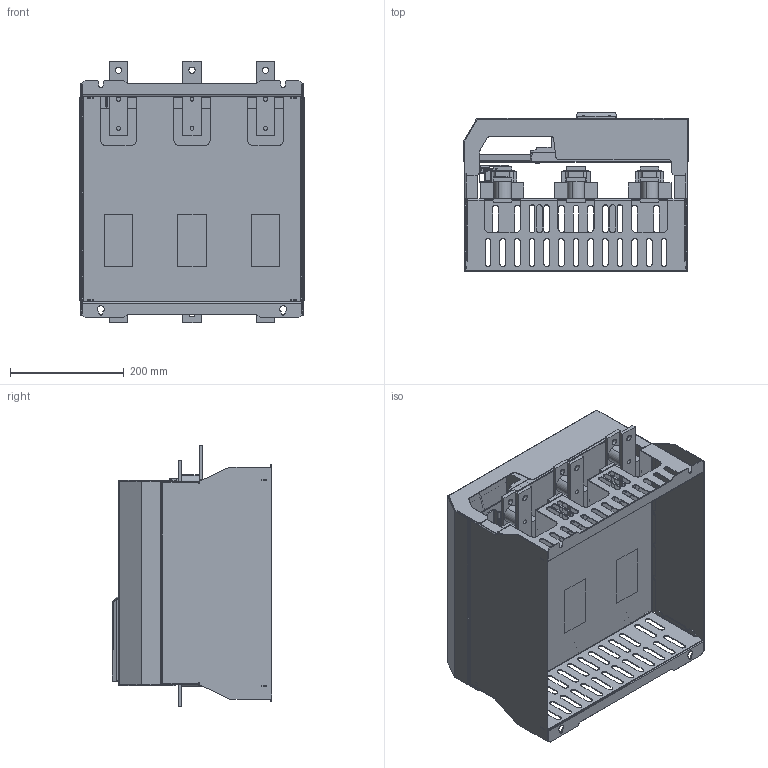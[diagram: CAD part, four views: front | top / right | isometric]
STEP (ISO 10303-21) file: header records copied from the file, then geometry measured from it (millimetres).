
FILE_DESCRIPTION (( 'STEP AP214' ), '1' );
FILE_NAME ('EMX3 G3 General Assembly Simplified, 21NOV12.STEP', '2012-11-27T00:34:25', ( '' ), ( '' ), 'SwSTEP 2.0', 'SolidWorks 2012', '' );
FILE_SCHEMA (( 'AUTOMOTIVE_DESIGN' ));
Length unit declared in the file: millimetre
Products named in the file (1): EMX3 G3 General Assembly Simplified, 21NOV12
Bounding box: 394 x 279.85 x 459.5 mm (x, y, z)
Volume: 8777845.6 mm3; surface area: 2347970.5 mm2
Topology: 41 solids, 41 shells, 2554 faces, 6660 edges, 4286 vertices
Faces by surface type: plane 1483, cylinder 527, bspline 366, cone 112, sphere 37, torus 29
Entity records: 108958 total; most frequent: CARTESIAN_POINT 19130, ORIENTED_EDGE 13286, DIRECTION 11543, EDGE_CURVE 6643, VECTOR 4525, LINE 4525, VERTEX_POINT 4286, AXIS2_PLACEMENT_3D 3509
